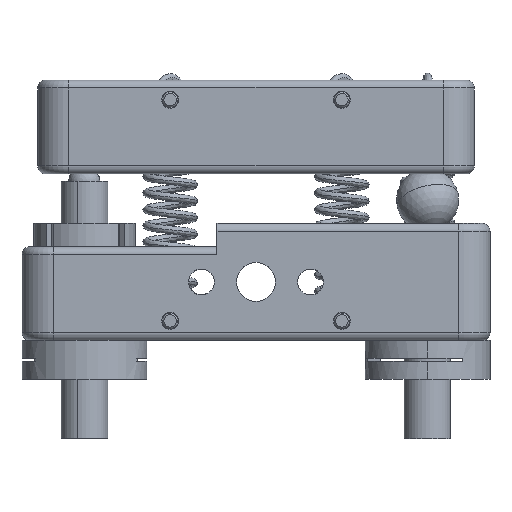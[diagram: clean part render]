
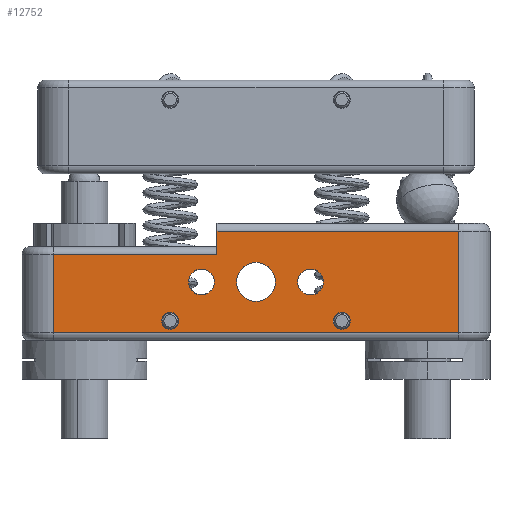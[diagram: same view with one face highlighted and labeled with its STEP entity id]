
A CAD part, left-side view. The second image highlights one B-rep face of the part: STEP entity #12752.
In plain terms, the highlighted planar face has unit normal (-1, 0, 0).
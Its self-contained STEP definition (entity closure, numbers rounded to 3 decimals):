
#229 = AXIS2_PLACEMENT_3D ( 'NONE', #7416, #18557, #19025 ) ;
#267 = ORIENTED_EDGE ( 'NONE', *, *, #16141, .F. ) ;
#522 = DIRECTION ( 'NONE',  ( 0., 0., -1. ) ) ;
#754 = ORIENTED_EDGE ( 'NONE', *, *, #14347, .F. ) ;
#812 = CARTESIAN_POINT ( 'NONE',  ( -30., 11., 1.4 ) ) ;
#1011 = ORIENTED_EDGE ( 'NONE', *, *, #23003, .F. ) ;
#1028 = CARTESIAN_POINT ( 'NONE',  ( -30., 5., 14. ) ) ;
#1148 = DIRECTION ( 'NONE',  ( 0., 0., 1. ) ) ;
#1284 = CARTESIAN_POINT ( 'NONE',  ( -30., -26., 15. ) ) ;
#1586 = CIRCLE ( 'NONE', #2845, 2.5 ) ;
#1609 = LINE ( 'NONE', #2566, #10971 ) ;
#1935 = VERTEX_POINT ( 'NONE', #16008 ) ;
#2389 = CARTESIAN_POINT ( 'NONE',  ( -30., 5., 12. ) ) ;
#2487 = DIRECTION ( 'NONE',  ( 0., 1., 0. ) ) ;
#2566 = CARTESIAN_POINT ( 'NONE',  ( -30., 26., 11. ) ) ;
#2845 = AXIS2_PLACEMENT_3D ( 'NONE', #10355, #23435, #12255 ) ;
#3179 = DIRECTION ( 'NONE',  ( 0., 0., 1. ) ) ;
#3658 = CIRCLE ( 'NONE', #18856, 1.65 ) ;
#3670 = VERTEX_POINT ( 'NONE', #22545 ) ;
#3752 = EDGE_LOOP ( 'NONE', ( #22870, #1011 ) ) ;
#3915 = CIRCLE ( 'NONE', #4791, 1.65 ) ;
#4111 = AXIS2_PLACEMENT_3D ( 'NONE', #18738, #7600, #20657 ) ;
#4219 = FACE_BOUND ( 'NONE', #3752, .T. ) ;
#4449 = DIRECTION ( 'NONE',  ( 0., 1., 0. ) ) ;
#4791 = AXIS2_PLACEMENT_3D ( 'NONE', #16262, #5085, #18108 ) ;
#5085 = DIRECTION ( 'NONE',  ( -1., 0., 0. ) ) ;
#5405 = LINE ( 'NONE', #1284, #14754 ) ;
#5772 = ORIENTED_EDGE ( 'NONE', *, *, #18719, .F. ) ;
#5797 = EDGE_CURVE ( 'NONE', #19457, #9703, #18786, .T. ) ;
#6248 = VERTEX_POINT ( 'NONE', #16540 ) ;
#6258 = DIRECTION ( 'NONE',  ( -1., 0., 0. ) ) ;
#6292 = CARTESIAN_POINT ( 'NONE',  ( -30., 11., 3.6 ) ) ;
#7045 = CARTESIAN_POINT ( 'NONE',  ( -30., -26., 14. ) ) ;
#7170 = LINE ( 'NONE', #21177, #20881 ) ;
#7327 = CARTESIAN_POINT ( 'NONE',  ( -30., 0., 5. ) ) ;
#7328 = EDGE_CURVE ( 'NONE', #20123, #7975, #17278, .T. ) ;
#7416 = CARTESIAN_POINT ( 'NONE',  ( -30., 11., 2.5 ) ) ;
#7600 = DIRECTION ( 'NONE',  ( -1., 0., 0. ) ) ;
#7694 = CARTESIAN_POINT ( 'NONE',  ( -30., 11., 2.5 ) ) ;
#7975 = VERTEX_POINT ( 'NONE', #8881 ) ;
#7999 = AXIS2_PLACEMENT_3D ( 'NONE', #17402, #6258, #19268 ) ;
#8079 = AXIS2_PLACEMENT_3D ( 'NONE', #22835, #11734, #522 ) ;
#8236 = ORIENTED_EDGE ( 'NONE', *, *, #21368, .F. ) ;
#8425 = ORIENTED_EDGE ( 'NONE', *, *, #13113, .T. ) ;
#8445 = EDGE_LOOP ( 'NONE', ( #8425, #10045, #10012, #22926, #22327, #24047 ) ) ;
#8881 = CARTESIAN_POINT ( 'NONE',  ( -30., -11., 3.6 ) ) ;
#9112 = DIRECTION ( 'NONE',  ( -1., 0., 0. ) ) ;
#9161 = FACE_BOUND ( 'NONE', #24113, .T. ) ;
#9563 = VERTEX_POINT ( 'NONE', #19242 ) ;
#9567 = DIRECTION ( 'NONE',  ( 0., 0., 1. ) ) ;
#9615 = VERTEX_POINT ( 'NONE', #15598 ) ;
#9703 = VERTEX_POINT ( 'NONE', #812 ) ;
#9711 = AXIS2_PLACEMENT_3D ( 'NONE', #20304, #9112, #22217 ) ;
#9842 = CARTESIAN_POINT ( 'NONE',  ( -30., -7., 5.85 ) ) ;
#9864 = EDGE_LOOP ( 'NONE', ( #15774, #8236 ) ) ;
#9898 = DIRECTION ( 'NONE',  ( 0., 0., 1. ) ) ;
#10012 = ORIENTED_EDGE ( 'NONE', *, *, #14804, .T. ) ;
#10045 = ORIENTED_EDGE ( 'NONE', *, *, #17668, .T. ) ;
#10355 = CARTESIAN_POINT ( 'NONE',  ( -30., 0., 7.5 ) ) ;
#10560 = CARTESIAN_POINT ( 'NONE',  ( -30., 26., 15. ) ) ;
#10729 = CARTESIAN_POINT ( 'NONE',  ( -30., -7., 7.5 ) ) ;
#10899 = DIRECTION ( 'NONE',  ( -1., 0., 0. ) ) ;
#10971 = VECTOR ( 'NONE', #4449, 1000. ) ;
#11598 = EDGE_CURVE ( 'NONE', #11899, #14668, #7170, .T. ) ;
#11620 = EDGE_CURVE ( 'NONE', #1935, #19161, #1609, .T. ) ;
#11734 = DIRECTION ( 'NONE',  ( 1., 0., 0. ) ) ;
#11899 = VERTEX_POINT ( 'NONE', #7045 ) ;
#11940 = EDGE_LOOP ( 'NONE', ( #5772, #754 ) ) ;
#12255 = DIRECTION ( 'NONE',  ( 0., 0., 1. ) ) ;
#12363 = DIRECTION ( 'NONE',  ( -1., 0., 0. ) ) ;
#12618 = DIRECTION ( 'NONE',  ( 0., 0., 1. ) ) ;
#12752 = ADVANCED_FACE ( 'NONE', ( #9161, #23506, #14153, #4219, #18484, #13586 ), #19111, .F. ) ;
#12824 = EDGE_CURVE ( 'NONE', #7975, #20123, #22342, .T. ) ;
#13112 = LINE ( 'NONE', #2389, #18010 ) ;
#13113 = EDGE_CURVE ( 'NONE', #19161, #9563, #14439, .T. ) ;
#13586 = FACE_OUTER_BOUND ( 'NONE', #8445, .T. ) ;
#14031 = EDGE_CURVE ( 'NONE', #15438, #9615, #3915, .T. ) ;
#14042 = DIRECTION ( 'NONE',  ( 0., -1., 0. ) ) ;
#14072 = CARTESIAN_POINT ( 'NONE',  ( -30., 7., 9.15 ) ) ;
#14143 = EDGE_LOOP ( 'NONE', ( #267, #15213 ) ) ;
#14153 = FACE_BOUND ( 'NONE', #14143, .T. ) ;
#14347 = EDGE_CURVE ( 'NONE', #16457, #23329, #17016, .T. ) ;
#14439 = LINE ( 'NONE', #10560, #18760 ) ;
#14637 = EDGE_CURVE ( 'NONE', #20093, #3670, #1586, .T. ) ;
#14668 = VERTEX_POINT ( 'NONE', #1028 ) ;
#14754 = VECTOR ( 'NONE', #3179, 1000. ) ;
#14804 = EDGE_CURVE ( 'NONE', #6248, #11899, #5405, .T. ) ;
#15213 = ORIENTED_EDGE ( 'NONE', *, *, #14637, .F. ) ;
#15438 = VERTEX_POINT ( 'NONE', #14072 ) ;
#15598 = CARTESIAN_POINT ( 'NONE',  ( -30., 7., 5.85 ) ) ;
#15774 = ORIENTED_EDGE ( 'NONE', *, *, #5797, .F. ) ;
#15808 = CARTESIAN_POINT ( 'NONE',  ( -30., 30., 1. ) ) ;
#16008 = CARTESIAN_POINT ( 'NONE',  ( -30., 5., 11. ) ) ;
#16141 = EDGE_CURVE ( 'NONE', #3670, #20093, #19324, .T. ) ;
#16262 = CARTESIAN_POINT ( 'NONE',  ( -30., 7., 7.5 ) ) ;
#16457 = VERTEX_POINT ( 'NONE', #9842 ) ;
#16530 = CIRCLE ( 'NONE', #22988, 1.65 ) ;
#16540 = CARTESIAN_POINT ( 'NONE',  ( -30., -26., 1. ) ) ;
#16688 = CARTESIAN_POINT ( 'NONE',  ( -30., -11., 1.4 ) ) ;
#17016 = CIRCLE ( 'NONE', #4111, 1.65 ) ;
#17117 = VECTOR ( 'NONE', #14042, 1000. ) ;
#17196 = EDGE_CURVE ( 'NONE', #1935, #14668, #13112, .T. ) ;
#17278 = CIRCLE ( 'NONE', #21639, 1.1 ) ;
#17332 = CIRCLE ( 'NONE', #20484, 1.1 ) ;
#17402 = CARTESIAN_POINT ( 'NONE',  ( -30., -11., 2.5 ) ) ;
#17668 = EDGE_CURVE ( 'NONE', #9563, #6248, #22141, .T. ) ;
#18010 = VECTOR ( 'NONE', #9898, 1000. ) ;
#18108 = DIRECTION ( 'NONE',  ( 0., 0., 1. ) ) ;
#18484 = FACE_BOUND ( 'NONE', #11940, .T. ) ;
#18557 = DIRECTION ( 'NONE',  ( -1., 0., 0. ) ) ;
#18719 = EDGE_CURVE ( 'NONE', #23329, #16457, #16530, .T. ) ;
#18738 = CARTESIAN_POINT ( 'NONE',  ( -30., -7., 7.5 ) ) ;
#18760 = VECTOR ( 'NONE', #21675, 1000. ) ;
#18786 = CIRCLE ( 'NONE', #229, 1.1 ) ;
#18856 = AXIS2_PLACEMENT_3D ( 'NONE', #22104, #10899, #24008 ) ;
#19025 = DIRECTION ( 'NONE',  ( 0., 0., 1. ) ) ;
#19111 = PLANE ( 'NONE',  #8079 ) ;
#19161 = VERTEX_POINT ( 'NONE', #23977 ) ;
#19242 = CARTESIAN_POINT ( 'NONE',  ( -30., 26., 1. ) ) ;
#19268 = DIRECTION ( 'NONE',  ( 0., 0., 1. ) ) ;
#19324 = CIRCLE ( 'NONE', #9711, 2.5 ) ;
#19457 = VERTEX_POINT ( 'NONE', #6292 ) ;
#20093 = VERTEX_POINT ( 'NONE', #7327 ) ;
#20123 = VERTEX_POINT ( 'NONE', #16688 ) ;
#20304 = CARTESIAN_POINT ( 'NONE',  ( -30., 0., 7.5 ) ) ;
#20484 = AXIS2_PLACEMENT_3D ( 'NONE', #7694, #20749, #9567 ) ;
#20657 = DIRECTION ( 'NONE',  ( 0., 0., 1. ) ) ;
#20749 = DIRECTION ( 'NONE',  ( -1., 0., 0. ) ) ;
#20881 = VECTOR ( 'NONE', #2487, 1000. ) ;
#21177 = CARTESIAN_POINT ( 'NONE',  ( -30., 5., 14. ) ) ;
#21368 = EDGE_CURVE ( 'NONE', #9703, #19457, #17332, .T. ) ;
#21639 = AXIS2_PLACEMENT_3D ( 'NONE', #23560, #12363, #1148 ) ;
#21675 = DIRECTION ( 'NONE',  ( 0., 0., -1. ) ) ;
#22104 = CARTESIAN_POINT ( 'NONE',  ( -30., 7., 7.5 ) ) ;
#22141 = LINE ( 'NONE', #15808, #17117 ) ;
#22217 = DIRECTION ( 'NONE',  ( 0., 0., 1. ) ) ;
#22327 = ORIENTED_EDGE ( 'NONE', *, *, #17196, .F. ) ;
#22342 = CIRCLE ( 'NONE', #7999, 1.1 ) ;
#22403 = ORIENTED_EDGE ( 'NONE', *, *, #7328, .F. ) ;
#22545 = CARTESIAN_POINT ( 'NONE',  ( -30., 0., 10. ) ) ;
#22652 = CARTESIAN_POINT ( 'NONE',  ( -30., -7., 9.15 ) ) ;
#22835 = CARTESIAN_POINT ( 'NONE',  ( -30., 30., 15. ) ) ;
#22870 = ORIENTED_EDGE ( 'NONE', *, *, #14031, .F. ) ;
#22926 = ORIENTED_EDGE ( 'NONE', *, *, #11598, .T. ) ;
#22988 = AXIS2_PLACEMENT_3D ( 'NONE', #10729, #23820, #12618 ) ;
#23003 = EDGE_CURVE ( 'NONE', #9615, #15438, #3658, .T. ) ;
#23329 = VERTEX_POINT ( 'NONE', #22652 ) ;
#23435 = DIRECTION ( 'NONE',  ( -1., 0., 0. ) ) ;
#23506 = FACE_BOUND ( 'NONE', #9864, .T. ) ;
#23560 = CARTESIAN_POINT ( 'NONE',  ( -30., -11., 2.5 ) ) ;
#23820 = DIRECTION ( 'NONE',  ( -1., 0., 0. ) ) ;
#23824 = ORIENTED_EDGE ( 'NONE', *, *, #12824, .F. ) ;
#23977 = CARTESIAN_POINT ( 'NONE',  ( -30., 26., 11. ) ) ;
#24008 = DIRECTION ( 'NONE',  ( 0., 0., 1. ) ) ;
#24047 = ORIENTED_EDGE ( 'NONE', *, *, #11620, .T. ) ;
#24113 = EDGE_LOOP ( 'NONE', ( #23824, #22403 ) ) ;
